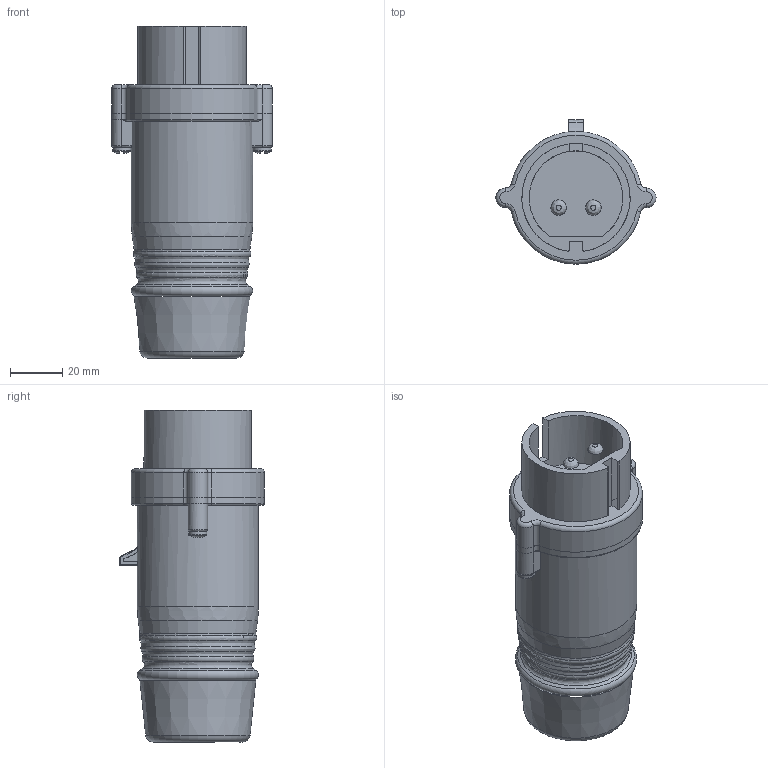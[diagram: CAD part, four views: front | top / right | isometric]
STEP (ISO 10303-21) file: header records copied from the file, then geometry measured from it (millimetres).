
FILE_DESCRIPTION(/* description */ (''),/* implementation_level */ '2;1');
FILE_NAME(/* name */ '4006063.stp',/* time_stamp */ '2016-09-26T14:36:51+02:00',/* author */ (''),/* organization */ (''),/* preprocessor_version */ 'ST-DEVELOPER v16',/* originating_system */ 'SIEMENS PLM Software NX 11.0',/* authorisation */ '');
FILE_SCHEMA (('AUTOMOTIVE_DESIGN { 1 0 10303 214 3 1 1 1 }'));
Length unit declared in the file: millimetre
Products named in the file (1): 4006063_LINKEDEXT_jt
Bounding box: 61.5 x 55.5 x 127.47 mm (x, y, z)
Surface area: 26383 mm2 (no closed solid volume)
Topology: 0 solids, 11 shells, 139 faces, 451 edges, 311 vertices
Faces by surface type: plane 54, cylinder 39, torus 29, bspline 13, cone 4
Full cylindrical faces by diameter (mm): 7 x2, 46.6 x1
Entity records: 6801 total; most frequent: CARTESIAN_POINT 2386, DIRECTION 739, ORIENTED_EDGE 683, EDGE_CURVE 415, VERTEX_POINT 297, AXIS2_PLACEMENT_3D 283, LINE 173, VECTOR 173
